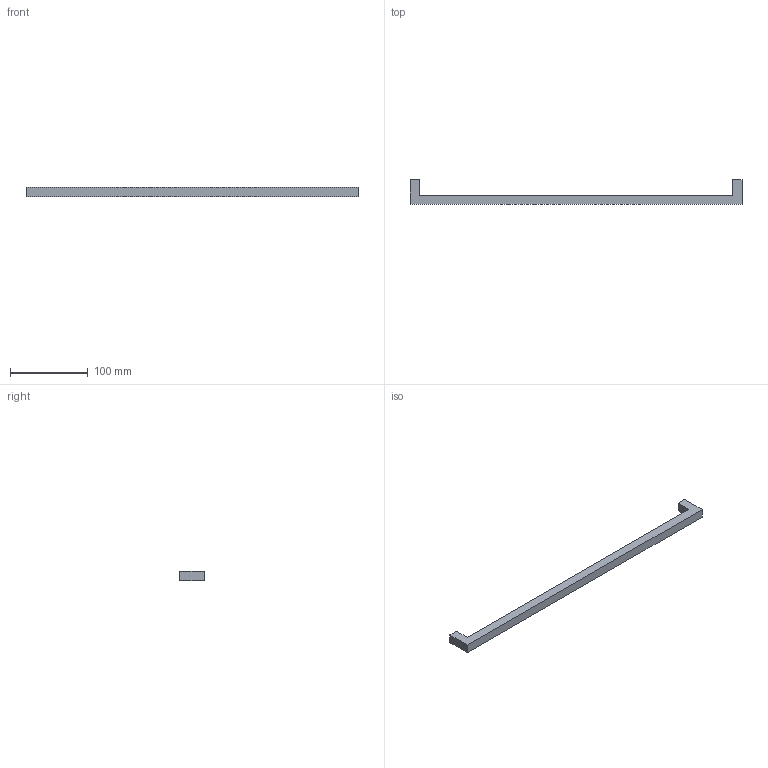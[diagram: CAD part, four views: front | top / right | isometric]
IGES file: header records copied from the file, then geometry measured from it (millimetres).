
Start section: Data from Parasolid IGES Translator 15.0.47, Copyright(c) 2006 Siemens P LM Software. All Rights Reserved.
Global section: file name: 9207350.igs; native system:  By UGS Corp.; preprocessor: XPlus GENERIC/IGES 3.0; author: Noname; organization: Noname; date: 20151215.135626; units: millimetre
Bounding box: 428 x 32 x 12 mm (x, y, z)
Surface area: 23003.3 mm2 (no closed solid volume)
Topology: 0 solids, 0 shells, 14 faces, 60 edges, 58 vertices
Faces by surface type: extrusion 12, revolution 2
